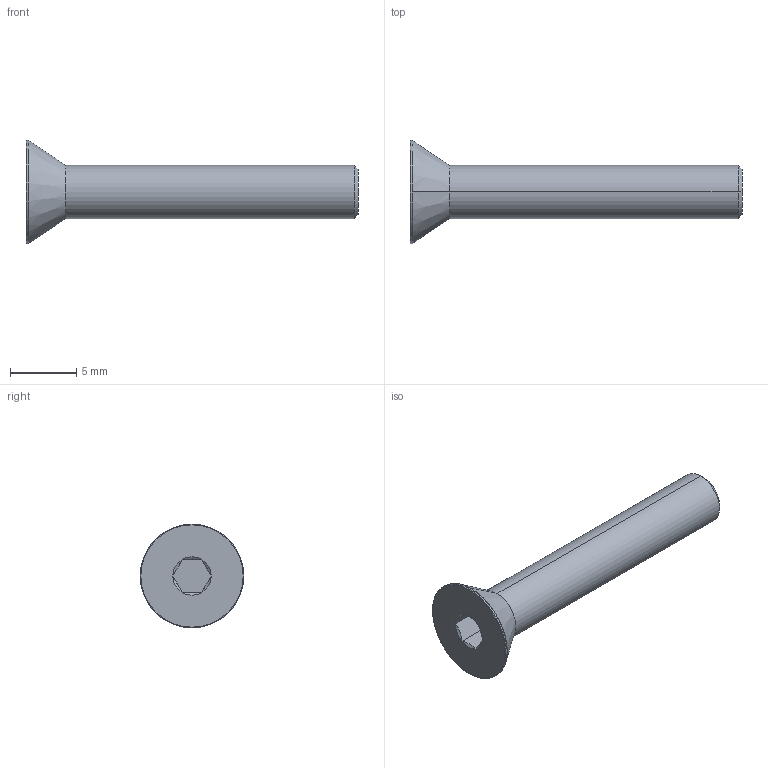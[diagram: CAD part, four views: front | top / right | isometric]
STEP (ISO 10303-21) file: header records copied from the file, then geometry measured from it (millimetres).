
FILE_DESCRIPTION (( 'STEP AP203' ), '1' );
FILE_NAME ('LGDB-TDE-M4x25.STEP', '2026-08-12T01:26:39', ( '' ), ( '' ), 'SwSTEP 2.0', 'SolidWorks 2020', '' );
FILE_SCHEMA (( 'CONFIG_CONTROL_DESIGN' ));
Length unit declared in the file: millimetre
Products named in the file (1): LGDB-TDE-M4x25
Bounding box: 25 x 7.8 x 7.8 mm (x, y, z)
Volume: 353.8 mm3; surface area: 418.4 mm2
Topology: 1 solids, 1 shells, 28 faces, 53 edges, 28 vertices
Faces by surface type: cone 11, plane 9, torus 4, cylinder 4
Entity records: 792 total; most frequent: CARTESIAN_POINT 153, DIRECTION 129, ORIENTED_EDGE 106, AXIS2_PLACEMENT_3D 54, EDGE_CURVE 53, EDGE_LOOP 29, ADVANCED_FACE 28, VERTEX_POINT 28
